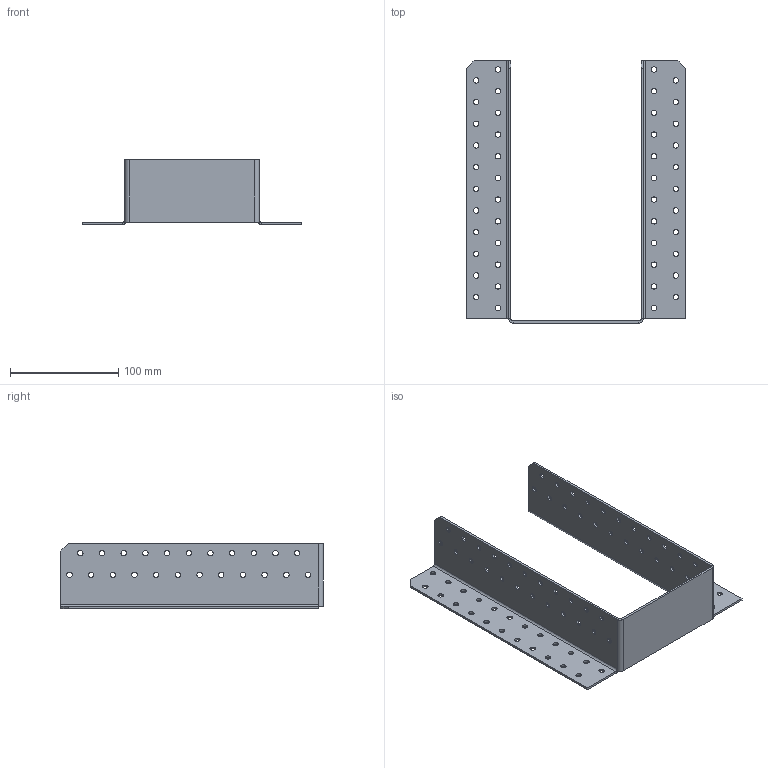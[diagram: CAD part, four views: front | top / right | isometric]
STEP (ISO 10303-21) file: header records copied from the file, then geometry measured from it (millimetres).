
FILE_DESCRIPTION (( 'STEP AP203' ), '1' );
FILE_NAME ('405052.STEP', '2021-04-17T16:13:15', ( '' ), ( '' ), 'SwSTEP 2.0', 'SolidWorks 2013', '' );
FILE_SCHEMA (( 'CONFIG_CONTROL_DESIGN' ));
Length unit declared in the file: millimetre
Products named in the file (1): 405052
Bounding box: 202 x 242 x 60 mm (x, y, z)
Volume: 103762.6 mm3; surface area: 109576.9 mm2
Topology: 1 solids, 1 shells, 228 faces, 648 edges, 422 vertices
Faces by surface type: cylinder 192, plane 36
Entity records: 8043 total; most frequent: DIRECTION 1492, CARTESIAN_POINT 1299, ORIENTED_EDGE 1296, EDGE_CURVE 648, AXIS2_PLACEMENT_3D 615, VERTEX_POINT 422, EDGE_LOOP 412, CIRCLE 386
